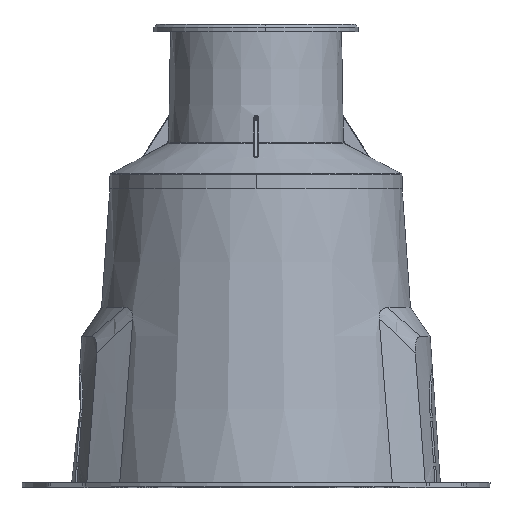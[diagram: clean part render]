
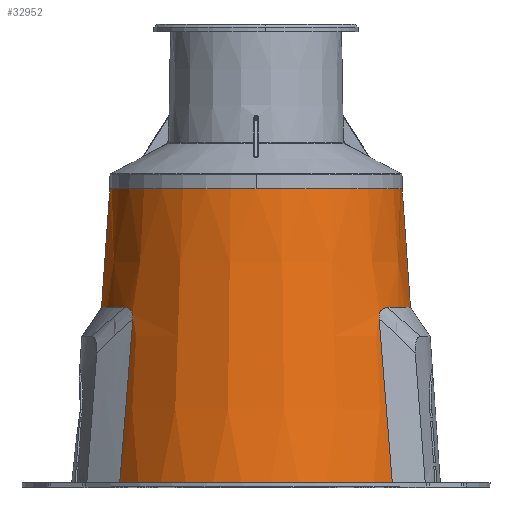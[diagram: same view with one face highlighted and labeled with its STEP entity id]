
A CAD part, top view. The second image highlights one B-rep face of the part: STEP entity #32952.
In plain terms, the highlighted conical face has half-angle 3.984 degrees and reference radius 53.5 mm.
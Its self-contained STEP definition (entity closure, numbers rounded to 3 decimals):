
#24893=CARTESIAN_POINT('',(0.,0.,128.5));
#24894=DIRECTION('',(0.,0.,1.));
#24895=DIRECTION('',(0.817,0.576,0.));
#24896=AXIS2_PLACEMENT_3D('',#24893,#24894,#24895);
#25276=CARTESIAN_POINT('',(-42.119,32.344,
72.577));
#25287=CARTESIAN_POINT('',(-46.594,32.833,
128.5));
#25289=CARTESIAN_POINT('',(-45.101,27.498,
68.524));
#25305=CARTESIAN_POINT('',(-42.119,32.344,
72.577));
#25306=CARTESIAN_POINT('',(-42.103,32.342,
72.374));
#25307=CARTESIAN_POINT('',(-42.086,32.319,
71.991));
#25308=CARTESIAN_POINT('',(-42.105,32.238,
71.487));
#25309=CARTESIAN_POINT('',(-42.161,32.113,
71.039));
#25310=CARTESIAN_POINT('',(-42.252,31.946,
70.635));
#25311=CARTESIAN_POINT('',(-42.376,31.74,
70.27));
#25312=CARTESIAN_POINT('',(-42.537,31.483,
69.93));
#25313=CARTESIAN_POINT('',(-42.74,31.171,
69.616));
#25314=CARTESIAN_POINT('',(-42.992,30.788,
69.323));
#25315=CARTESIAN_POINT('',(-43.299,30.323,
69.06));
#25316=CARTESIAN_POINT('',(-43.666,29.766,
68.837));
#25317=CARTESIAN_POINT('',(-44.086,29.118,
68.664));
#25318=CARTESIAN_POINT('',(-44.562,28.372,
68.552));
#25319=CARTESIAN_POINT('',(-44.916,27.802,
68.524));
#25320=CARTESIAN_POINT('',(-45.101,27.498,
68.524));
#25327=CARTESIAN_POINT('',(0.,0.,
68.524));
#25328=DIRECTION('',(0.,0.,1.));
#25329=DIRECTION('',(-0.854,0.521,0.));
#25330=AXIS2_PLACEMENT_3D('',#25327,#25328,#25329);
#25352=DIRECTION('',(0.069,0.,-0.998));
#25353=VECTOR('',#25352,40.622);
#25354=CARTESIAN_POINT('',(-52.823,0.,
68.524));
#25355=LINE('',#25354,#25353);
#25376=DIRECTION('',(-0.069,0.,-0.998));
#25377=VECTOR('',#25376,40.622);
#25378=CARTESIAN_POINT('',(52.823,0.,
68.524));
#25379=LINE('',#25378,#25377);
#25380=CARTESIAN_POINT('',(42.119,32.344,72.577));
#25381=CARTESIAN_POINT('',(42.091,32.34,72.229));
#25382=CARTESIAN_POINT('',(42.08,32.28,71.576));
#25383=CARTESIAN_POINT('',(42.209,32.012,70.709));
#25384=CARTESIAN_POINT('',(42.481,31.568,69.993));
#25385=CARTESIAN_POINT('',(42.855,30.994,69.448));
#25386=CARTESIAN_POINT('',(43.308,30.31,69.039));
#25387=CARTESIAN_POINT('',(43.832,29.513,68.75));
#25388=CARTESIAN_POINT('',(44.419,28.6,68.568));
#25389=CARTESIAN_POINT('',(44.866,27.883,68.524));
#25390=CARTESIAN_POINT('',(45.101,27.498,68.524));
#25392=CARTESIAN_POINT('',(46.594,32.833,128.5));
#25393=CARTESIAN_POINT('',(46.101,32.783,122.298));
#25394=CARTESIAN_POINT('',(45.114,32.677,109.887));
#25395=CARTESIAN_POINT('',(43.623,32.514,91.246));
#25396=CARTESIAN_POINT('',(42.621,32.402,78.802));
#25397=CARTESIAN_POINT('',(42.119,32.344,72.577));
#25399=CARTESIAN_POINT('',(-42.119,32.344,
72.577));
#25400=CARTESIAN_POINT('',(-42.621,32.402,
78.802));
#25401=CARTESIAN_POINT('',(-43.623,32.514,
91.245));
#25402=CARTESIAN_POINT('',(-45.115,32.676,
109.887));
#25403=CARTESIAN_POINT('',(-46.101,32.783,
122.298));
#25404=CARTESIAN_POINT('',(-46.594,32.833,
128.5));
#25406=CARTESIAN_POINT('',(0.,0.,28.));
#25407=DIRECTION('',(0.,0.,-1.));
#25408=DIRECTION('',(-1.,0.,0.));
#25409=AXIS2_PLACEMENT_3D('',#25406,#25407,#25408);
#26770=CARTESIAN_POINT('',(0.,0.,
68.524));
#26771=DIRECTION('',(0.,0.,1.));
#26772=DIRECTION('',(1.,0.,0.));
#26773=AXIS2_PLACEMENT_3D('',#26770,#26771,#26772);
#29789=CARTESIAN_POINT('',(-50.,0.,28.));
#29790=CARTESIAN_POINT('',(50.,0.,28.));
#29791=VERTEX_POINT('',#29789);
#29792=VERTEX_POINT('',#29790);
#29810=VERTEX_POINT('',#25276);
#29833=CARTESIAN_POINT('',(-52.823,0.,
68.524));
#29835=VERTEX_POINT('',#29833);
#29958=VERTEX_POINT('',#25289);
#30215=VERTEX_POINT('',#25287);
#30254=CARTESIAN_POINT('',(52.823,0.,
68.524));
#30255=VERTEX_POINT('',#30254);
#30288=CARTESIAN_POINT('',(46.594,32.833,128.5));
#30289=VERTEX_POINT('',#30288);
#30460=CARTESIAN_POINT('',(45.101,27.498,68.524));
#30461=VERTEX_POINT('',#30460);
#30524=VERTEX_POINT('',#25397);
#32931=CARTESIAN_POINT('',(0.,0.,78.25));
#32932=DIRECTION('',(0.,0.,1.));
#32933=DIRECTION('',(1.,0.,0.));
#32934=AXIS2_PLACEMENT_3D('',#32931,#32932,#32933);
#32935=CONICAL_SURFACE('',#32934,53.5,3.984);
#32937=ORIENTED_EDGE('',*,*,#32936,.T.);
#32938=ORIENTED_EDGE('',*,*,#32924,.F.);
#32940=ORIENTED_EDGE('',*,*,#32939,.T.);
#32942=ORIENTED_EDGE('',*,*,#32941,.F.);
#32944=ORIENTED_EDGE('',*,*,#32943,.F.);
#32945=ORIENTED_EDGE('',*,*,#32318,.T.);
#32946=ORIENTED_EDGE('',*,*,#32747,.F.);
#32947=ORIENTED_EDGE('',*,*,#32801,.T.);
#32948=ORIENTED_EDGE('',*,*,#32819,.T.);
#32949=ORIENTED_EDGE('',*,*,#32912,.T.);
#32950=EDGE_LOOP('',(#32937,#32938,#32940,#32942,#32944,#32945,#32946,#32947,
#32948,#32949));
#32951=FACE_OUTER_BOUND('',#32950,.F.);
#32952=ADVANCED_FACE('',(#32951),#32935,.T.);
#24897=CIRCLE('',#24896,57.);
#25321=B_SPLINE_CURVE_WITH_KNOTS('',3,(#25305,#25306,#25307,#25308,#25309,
#25310,#25311,#25312,#25313,#25314,#25315,#25316,#25317,#25318,#25319,#25320),
.UNSPECIFIED.,.F.,.F.,(4,1,1,1,1,1,1,1,1,1,1,1,1,4),(0.,0.077,
0.154,0.231,0.308,0.385,
0.462,0.538,0.615,0.692,
0.769,0.846,0.923,1.),.UNSPECIFIED.);
#25331=CIRCLE('',#25330,52.823);
#25391=B_SPLINE_CURVE_WITH_KNOTS('',3,(#25380,#25381,#25382,#25383,#25384,
#25385,#25386,#25387,#25388,#25389,#25390),.UNSPECIFIED.,.F.,.F.,(4,1,1,1,1,1,1,
1,4),(0.,0.125,0.25,0.375,0.5,0.625,0.75,0.875,1.),
.UNSPECIFIED.);
#25398=B_SPLINE_CURVE_WITH_KNOTS('',3,(#25392,#25393,#25394,#25395,#25396,
#25397),.UNSPECIFIED.,.F.,.F.,(4,1,1,4),(0.,0.333,
0.667,1.),.UNSPECIFIED.);
#25405=B_SPLINE_CURVE_WITH_KNOTS('',3,(#25399,#25400,#25401,#25402,#25403,
#25404),.UNSPECIFIED.,.F.,.F.,(4,1,1,4),(0.,0.333,
0.667,1.),.UNSPECIFIED.);
#25410=CIRCLE('',#25409,50.);
#26774=CIRCLE('',#26773,52.823);
#32318=EDGE_CURVE('',#30289,#30215,#24897,.T.);
#32747=EDGE_CURVE('',#29810,#30215,#25405,.T.);
#32801=EDGE_CURVE('',#29810,#29958,#25321,.T.);
#32819=EDGE_CURVE('',#29958,#29835,#25331,.T.);
#32912=EDGE_CURVE('',#29835,#29791,#25355,.T.);
#32924=EDGE_CURVE('',#30255,#29792,#25379,.T.);
#32936=EDGE_CURVE('',#29791,#29792,#25410,.T.);
#32939=EDGE_CURVE('',#30255,#30461,#26774,.T.);
#32941=EDGE_CURVE('',#30524,#30461,#25391,.T.);
#32943=EDGE_CURVE('',#30289,#30524,#25398,.T.);
